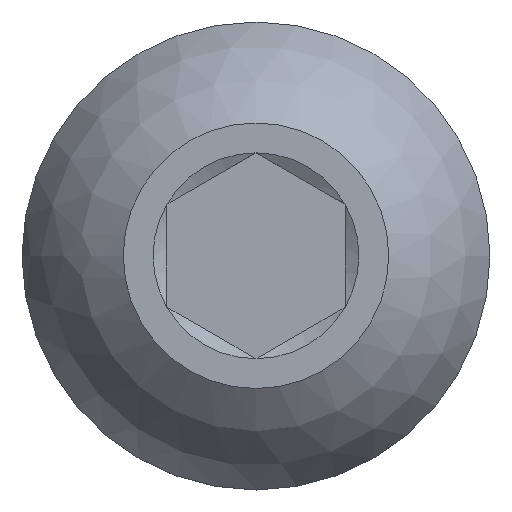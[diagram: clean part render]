
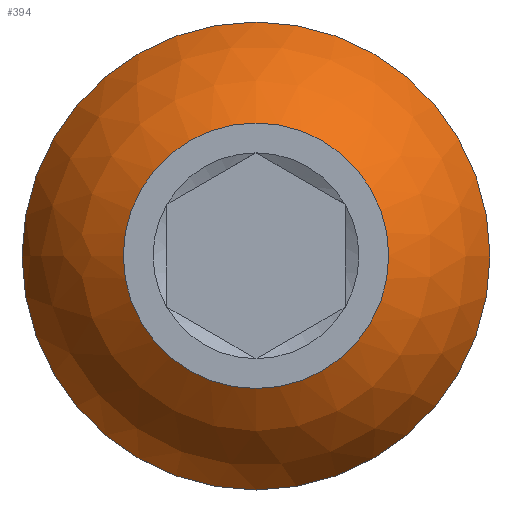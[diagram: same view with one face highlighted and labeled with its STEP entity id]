
A CAD part, top view. The second image highlights one B-rep face of the part: STEP entity #394.
In plain terms, the highlighted spherical face has radius 11.196 mm.
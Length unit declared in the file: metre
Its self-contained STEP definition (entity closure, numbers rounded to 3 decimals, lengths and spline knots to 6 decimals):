
#394 = ADVANCED_FACE( '', ( #1010, #1011 ), #1012, .T. );
#1010 = FACE_OUTER_BOUND( '', #2844, .T. );
#1011 = FACE_OUTER_BOUND( '', #2845, .T. );
#1012 = SPHERICAL_SURFACE( '', #2846, 0.011196 );
#2844 = EDGE_LOOP( '', ( #12161 ) );
#2845 = EDGE_LOOP( '', ( #12162 ) );
#2846 = AXIS2_PLACEMENT_3D( '', #12163, #12164, #12165 );
#12161 = ORIENTED_EDGE( '', *, *, #15573, .T. );
#12162 = ORIENTED_EDGE( '', *, *, #15574, .F. );
#12163 = CARTESIAN_POINT( '', ( 0., 0., -0.002887 ) );
#12164 = DIRECTION( '', ( 0., 0., -1. ) );
#12165 = DIRECTION( '', ( 0., 1., 0. ) );
#15573 = EDGE_CURVE( '', #16380, #16380, #16381, .T. );
#15574 = EDGE_CURVE( '', #16382, #16382, #16383, .T. );
#16380 = VERTEX_POINT( '', #20031 );
#16381 = CIRCLE( '', #20032, 0.005957 );
#16382 = VERTEX_POINT( '', #20033 );
#16383 = CIRCLE( '', #20034, 0.0105 );
#20031 = CARTESIAN_POINT( '', ( -0.005957, 0., 0.006593 ) );
#20032 = AXIS2_PLACEMENT_3D( '', #28053, #28054, #28055 );
#20033 = CARTESIAN_POINT( '', ( -0.0105, 0., 0.001 ) );
#20034 = AXIS2_PLACEMENT_3D( '', #28056, #28057, #28058 );
#28053 = CARTESIAN_POINT( '', ( 0., 0., 0.006593 ) );
#28054 = DIRECTION( '', ( 0., 0., -1. ) );
#28055 = DIRECTION( '', ( -1., 0., 0. ) );
#28056 = CARTESIAN_POINT( '', ( 0., 0., 0.001 ) );
#28057 = DIRECTION( '', ( 0., 0., -1. ) );
#28058 = DIRECTION( '', ( -1., 0., 0. ) );
